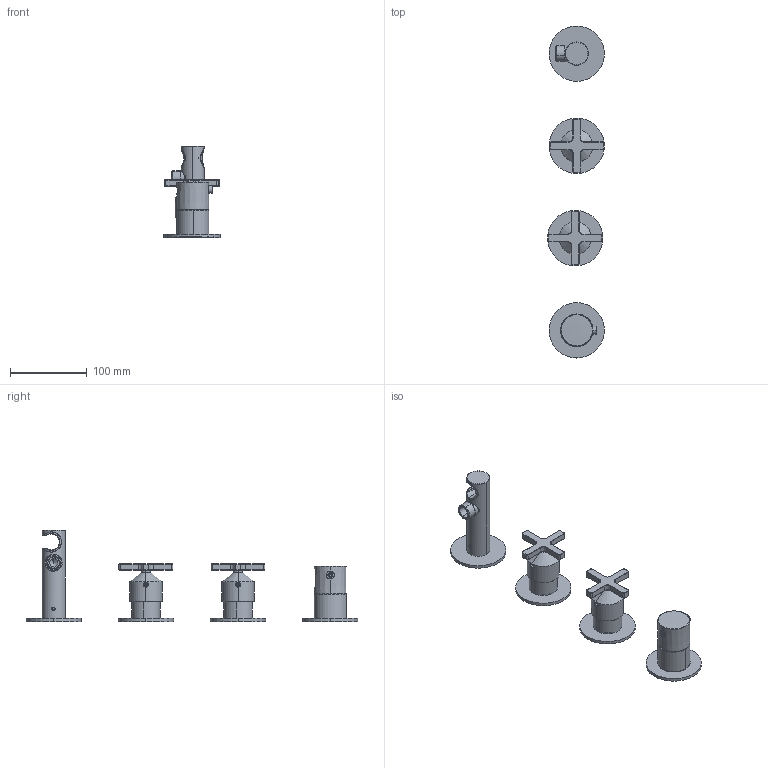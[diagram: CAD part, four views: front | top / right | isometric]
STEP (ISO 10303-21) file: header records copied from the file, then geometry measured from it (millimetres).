
FILE_DESCRIPTION (( 'STEP AP203' ), '1' );
FILE_NAME ('GPH51N.STEP', '2024-03-06T13:22:42', ( '' ), ( '' ), 'SwSTEP 2.0', 'SolidWorks 2023', '' );
FILE_SCHEMA (( 'CONFIG_CONTROL_DESIGN' ));
Length unit declared in the file: millimetre
Products named in the file (28): Placca Tonda Ï72_0044.01.003_0044.01.003_2; bottone_0083.01.285_0083.01.285_1; adattatore_G801D055_G801D055_1; Guarnizione in spugna_43000235_0043.00.235_3; or 42 x 1.5_23001023_4; placca seventy_0100.01.014_2; Grano M5 x 6 punta piatta_Grano M5 x 6 punta piatta_1; man cilindrica 42 zama_G801D065_G801D065_1; C24.2050.00.0; C24.2086.00.0; perni_D3000126_D3000126_2; AS855_00; C47.00.0121.0; AS811_00; C25.0791.00.1; GPH51N; gruppo placca seventy_0100.01.994_BOM_2; or 6 x 1.5_13000495_1; placca doccetta Ï72_0100.01.020_1; anello cromo_2A010025_002A.01.025_1; gruppo placca doccetta seventy_0100.01.993_BOM_1; gruppo placca tonda Ï72_0044.01.994_BOM; SIXTY_G801D625_BOM_1; C11.14.0008; C12.00.0011; Guarnizione in spugna_43000235_0043.00.235_4; molla_91000075_91000075_1; C24.2073.00.0
Assembly tree (31 placements, depth 3):
  GPH51N
    anello cromo_2A010025_002A.01.025_1
    SIXTY_G801D625_BOM_1
      man cilindrica 42 zama_G801D065_G801D065_1
      molla_91000075_91000075_1
      bottone_0083.01.285_0083.01.285_1
      perni_D3000126_D3000126_2
      Grano M5 x 6 punta piatta_Grano M5 x 6 punta piatta_1
      or 6 x 1.5_13000495_1
    adattatore_G801D055_G801D055_1  x2
    AS855_00
      C24.2086.00.0
      C47.00.0121.0
      C25.0791.00.1
      C12.00.0011
      C11.14.0008
    gruppo placca seventy_0100.01.994_BOM_2
      placca seventy_0100.01.014_2
      or 42 x 1.5_23001023_4
      Guarnizione in spugna_43000235_0043.00.235_4
    gruppo placca doccetta seventy_0100.01.993_BOM_1
      placca doccetta Ï72_0100.01.020_1
      Guarnizione in spugna_43000235_0043.00.235_3
    gruppo placca tonda Ï72_0044.01.994_BOM  x2
      Placca Tonda Ï72_0044.01.003_0044.01.003_2
      Guarnizione in spugna_43000235_0043.00.235_4
    AS811_00  x2
      C24.2073.00.0
      C24.2050.00.0
Bounding box: 73.92 x 432 x 119.5 mm (x, y, z)
Volume: 188904.7 mm3; surface area: 134592.9 mm2
Topology: 26 solids, 28 shells, 1012 faces, 2480 edges, 1545 vertices
Faces by surface type: plane 411, cylinder 334, cone 150, bspline 59, torus 58
Entity records: 29237 total; most frequent: CARTESIAN_POINT 8584, DIRECTION 3796, ORIENTED_EDGE 3638, EDGE_CURVE 1820, AXIS2_PLACEMENT_3D 1506, VERTEX_POINT 1143, EDGE_LOOP 820, LINE 784
